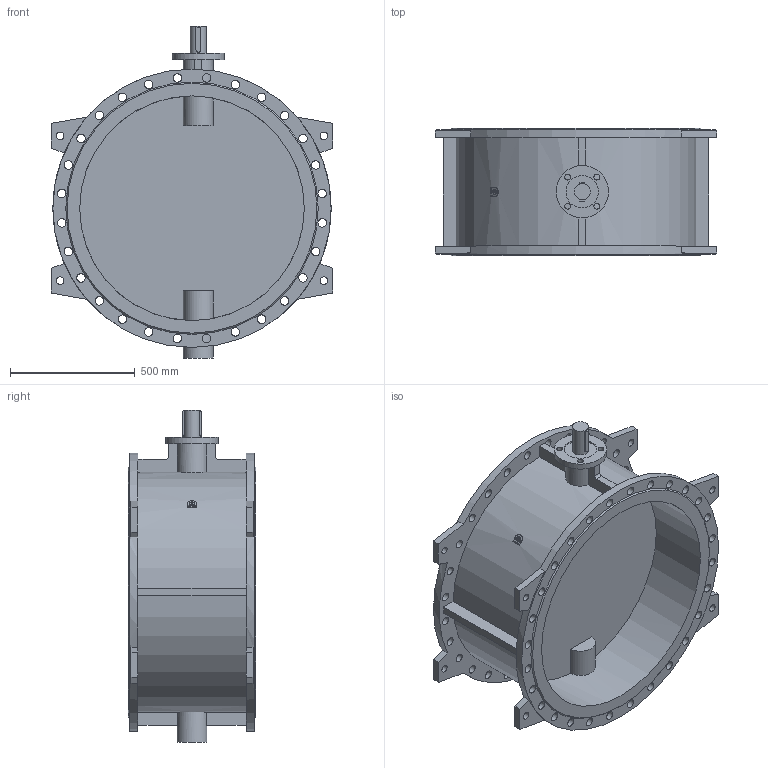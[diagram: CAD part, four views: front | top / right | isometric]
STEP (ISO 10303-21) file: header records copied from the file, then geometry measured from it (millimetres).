
FILE_DESCRIPTION(('STEP AP203'), '1');
FILE_NAME('Çàòâîð 023F.Z DN900 PN10_èñï', '', ('UNSPECIFIED'), ('UNSPECIFIED'), 'ASCON STEP Converter 1.6', 'ASCON Math Kernel', '');
FILE_SCHEMA(('CONFIG_CONTROL_DESIGN'));
Length unit declared in the file: millimetre
Bounding box: 1126 x 510 x 1330 mm (x, y, z)
Volume: 111586146.3 mm3; surface area: 5923219.6 mm2
Topology: 1 solids, 1 shells, 182 faces, 501 edges, 334 vertices
Faces by surface type: cylinder 95, plane 85, cone 2
Full cylindrical faces by diameter (mm): 23 x4, 30 x8, 34 x56, 65 x1, 120 x1, 130 x1, 210 x1, 900 x2, 1115 x2
Entity records: 8409 total; most frequent: CARTESIAN_POINT 2145, DIRECTION 974, ORIENTED_EDGE 844, EDGE_CURVE 422, EDGE_LOOP 410, AXIS2_PLACEMENT_3D 388, VERTEX_POINT 334, FACE_BOUND 258
